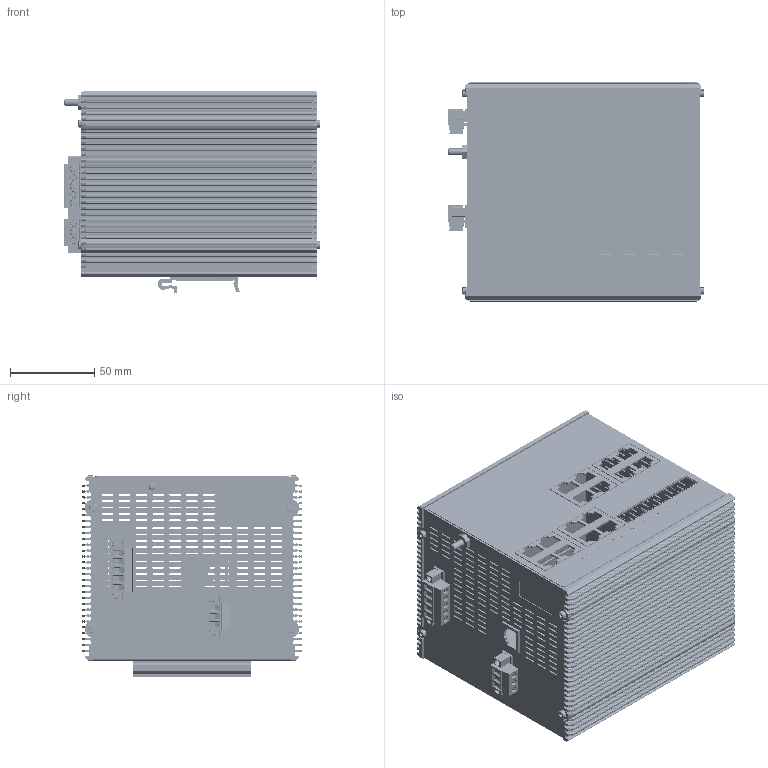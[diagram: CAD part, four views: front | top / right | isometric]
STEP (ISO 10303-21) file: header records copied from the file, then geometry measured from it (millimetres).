
FILE_DESCRIPTION(('TFLEX Exchange Step'),'2;1');
FILE_NAME('STK-EX-05-4100-BW40G0.stp', '2025-01-30T10:48:08+03:00',('Yuriy Romanov'),('Unknown organisation'),'TFLEX Exchange 2023.2','T-FLEX CAD','Unknown authorisation');
FILE_SCHEMA( ('AUTOMOTIVE_DESIGN { 1 0 10303 214 1 1 1 1 }') );
Length unit declared in the file: millimetre
Products named in the file (1): STK-EX-05-4100-BW40G0
Bounding box: 151.5 x 130 x 119.1 mm (x, y, z)
Volume: 161684.1 mm3; surface area: 306839 mm2
Topology: 63 solids, 69 shells, 7567 faces, 22137 edges, 14769 vertices
Faces by surface type: plane 3884, cylinder 3329, cone 238, torus 81, bspline 35
Full cylindrical faces by diameter (mm): 1 x5, 2 x4, 2.5 x38, 3 x20, 3.48 x4, 3.5 x32, 3.85 x4, 3.95 x16, 4 x3, 4.5 x1, 5.5 x13
Entity records: 263581 total; most frequent: CARTESIAN_POINT 58655, ORIENTED_EDGE 44222, DIRECTION 42297, EDGE_CURVE 22111, AXIS2_PLACEMENT_3D 15227, VERTEX_POINT 14769, VECTOR 11843, LINE 11843
